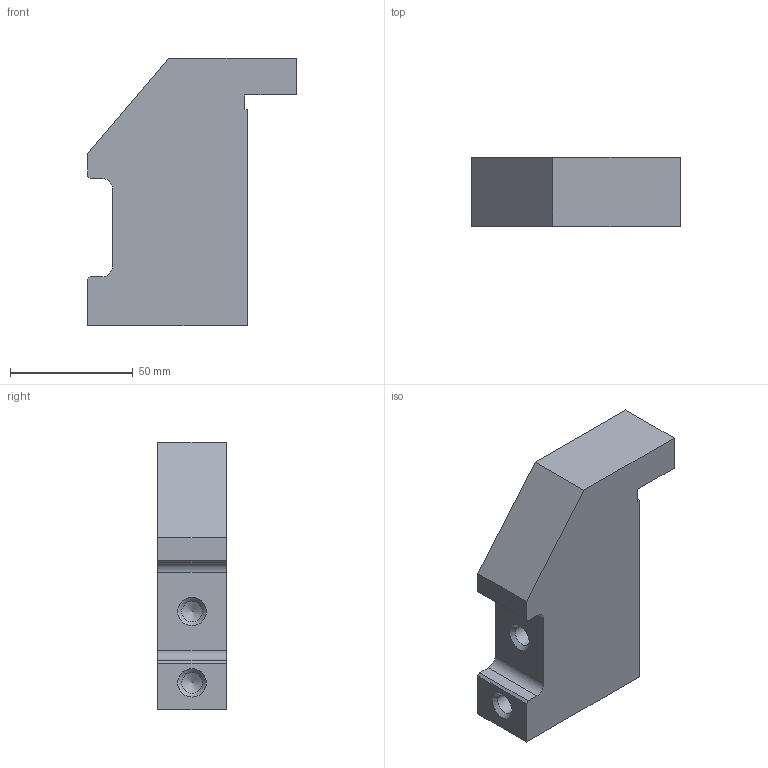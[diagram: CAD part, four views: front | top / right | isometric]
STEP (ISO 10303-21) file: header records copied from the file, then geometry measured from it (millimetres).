
FILE_DESCRIPTION(('STEP AP203'), '1');
FILE_NAME('ÒÏÏÔ1800.01.01.00.055 Êðþê êðåïëåíèÿ ïëàòôîðìû', '', ('UNSPECIFIED'), ('UNSPECIFIED'), 'C3D Converter', 'C3D Toolkit', '');
FILE_SCHEMA(('CONFIG_CONTROL_DESIGN'));
Length unit declared in the file: millimetre
Products named in the file (1): ТППФ1800.01.01.00.055
Bounding box: 85 x 28 x 109 mm (x, y, z)
Volume: 171711.1 mm3; surface area: 26031.1 mm2
Topology: 1 solids, 1 shells, 31 faces, 79 edges, 50 vertices
Faces by surface type: plane 17, cone 8, cylinder 6
Full cylindrical faces by diameter (mm): 8.376 x4
Entity records: 1117 total; most frequent: DIRECTION 143, CARTESIAN_POINT 141, ORIENTED_EDGE 126, EDGE_CURVE 63, AXIS2_PLACEMENT_3D 48, LINE 47, VECTOR 47, VERTEX_POINT 46
